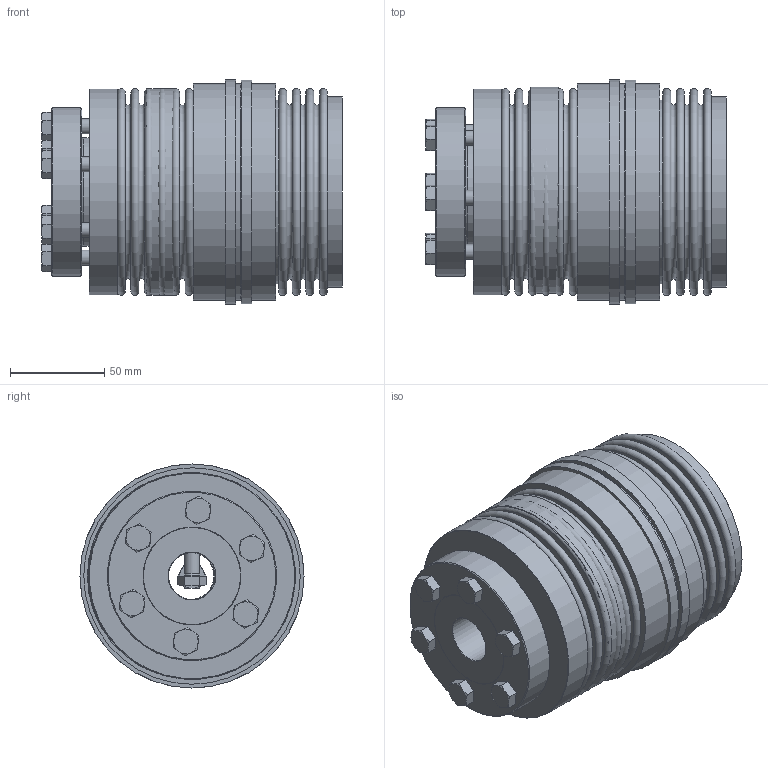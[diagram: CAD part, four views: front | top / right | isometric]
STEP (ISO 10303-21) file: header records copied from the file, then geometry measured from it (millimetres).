
FILE_DESCRIPTION( ( 'Unknown' ), '1' );
FILE_NAME( 'C:/Dokumente und Einstellungen/SKarpstein/Desktop/Korrigierte 3D Modelle/KBK-B-AI/KBK-BAI-300-143.stp', 'Unknown', ( 'Unknown' ), ( 'Unknown' ), 'XStep 1.0', 'Unknown', ' ' );
FILE_SCHEMA( ( 'automotive_design' ) );
Length unit declared in the file: millimetre
Products named in the file (12): Assem1; Assem2; Hex Screw GradeC_DIN_ISO 4018 - M8 x 30-NN; DR300_Standard; BA300_Standard; Stellring 300_0; Druckring 300_0; Kupplung L-I-300 Grundkörper_0; Konusbuchse 300_0; din_en_24017_m8x30_0; Flansch BK300; BL300_Standard_0
Bounding box: 159.87 x 119 x 119 mm (x, y, z)
Volume: 1539671.6 mm3; surface area: 568725.1 mm2
Topology: 38 solids, 38 shells, 773 faces, 1613 edges, 1025 vertices
Faces by surface type: plane 341, cone 216, cylinder 161, torus 55
Full cylindrical faces by diameter (mm): 3.242 x6, 5.2 x6, 6.647 x18, 6.8 x18, 8 x20, 8.5 x12, 9 x18, 11.63 x7, 25 x7, 52 x4, 55 x4, 57.995 x3, 76 x6, 83.5 x2, 84 x2, 88 x2, 90 x5, 98 x2, 98.5 x2, 99.8 x4, 101 x4, 109.5 x3, 115 x4, 119 x2
Entity records: 6015 total; most frequent: CARTESIAN_POINT 1289, DIRECTION 1002, ORIENTED_EDGE 636, AXIS2_PLACEMENT_3D 477, EDGE_LOOP 442, EDGE_CURVE 318, FACE_OUTER_BOUND 310, VERTEX_POINT 270
